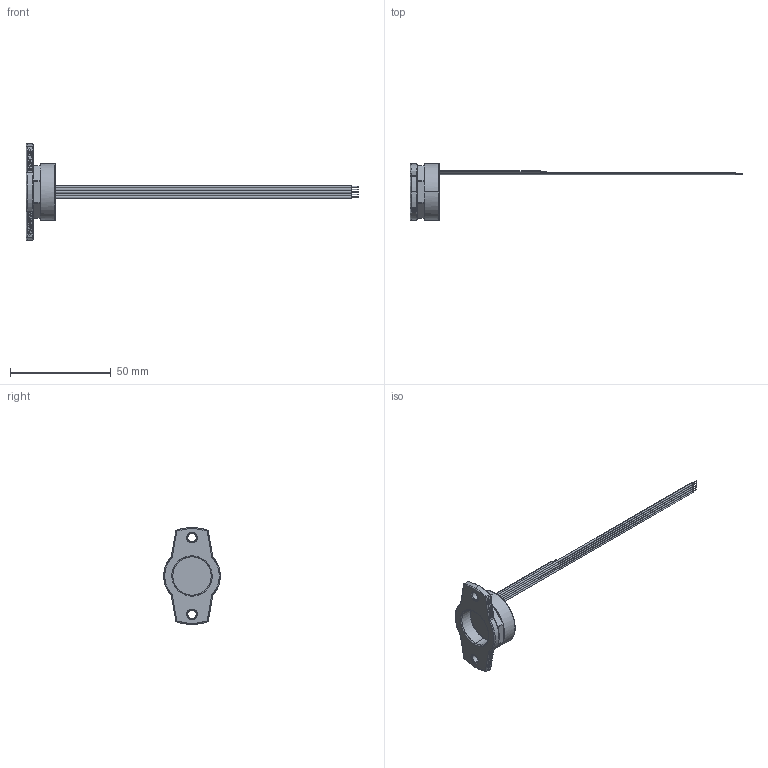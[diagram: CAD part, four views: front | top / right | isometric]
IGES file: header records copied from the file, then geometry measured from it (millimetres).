
Start section: SolidWorks IGES file using analytic representation for surfaces
Global section: file name: O:\30-MegaMotive-neu\09_Projekte & Produkte\04_Sensor Ø28\01_Entwicklung & Projekte\01_Mechanik & Gehäuse\00123_EN(x)28K Gehäuse\01_Aktuell\03_IGES SAT STEP und andere Formate\01_EN(x)28 K komplett montiert.IGS; native system: SolidWorks 2007; preprocessor: SolidWorks 2007; author: andreb; date: 110829.104008; units: millimetre
Bounding box: 164.5 x 28 x 48 mm (x, y, z)
Surface area: 7601.2 mm2 (no closed solid volume)
Topology: 0 solids, 0 shells, 276 faces, 3929 edges, 3929 vertices
Faces by surface type: bspline 206, revolution 70
